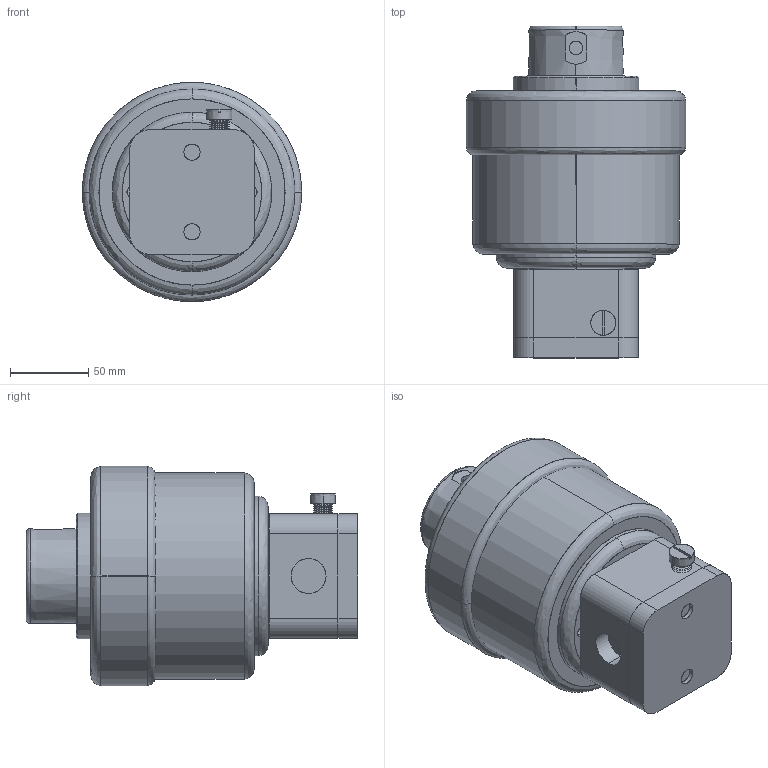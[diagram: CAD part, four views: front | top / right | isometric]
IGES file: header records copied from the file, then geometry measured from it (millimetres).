
Start section: SolidWorks IGES file using analytic representation for surfaces
Global section: file name: \\server\Users\Karen.Bodily\My Documents\DBU030-I030.IGS; native system: SolidWorks 2012; preprocessor: SolidWorks 2012; author: karen.bodily; date: 140515.155204; units: inch
Bounding box: 139.7 x 211.43 x 139.7 mm (x, y, z)
Surface area: 209897.5 mm2 (no closed solid volume)
Topology: 0 solids, 0 shells, 461 faces, 6485 edges, 6483 vertices
Faces by surface type: revolution 354, bspline 107
